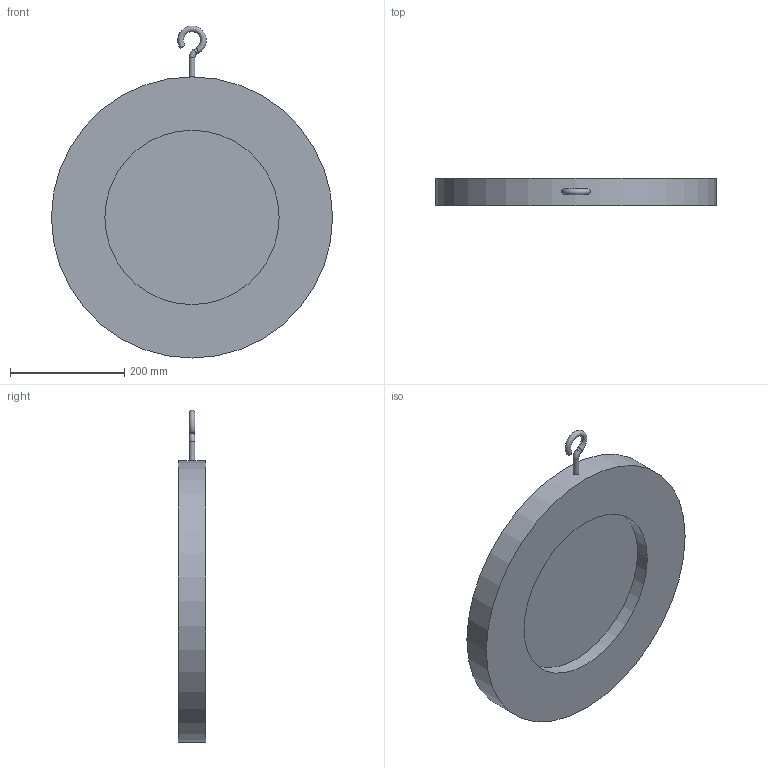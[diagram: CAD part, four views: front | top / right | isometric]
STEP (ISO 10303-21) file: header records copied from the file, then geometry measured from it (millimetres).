
FILE_DESCRIPTION(('STEP AP203'), '1');
FILE_NAME('孰囡囗 钺疣蝽 钿眍耱忸瘅囹 戾骠豚眦邂 008C.Y DN400', '', ('UNSPECIFIED'), ('UNSPECIFIED'), 'ASCON STEP Converter 1.6', 'ASCON Math Kernel', '');
FILE_SCHEMA(('CONFIG_CONTROL_DESIGN'));
Length unit declared in the file: millimetre
Bounding box: 492 x 48 x 581 mm (x, y, z)
Volume: 5742679.6 mm3; surface area: 516908.3 mm2
Topology: 1 solids, 1 shells, 31 faces, 69 edges, 45 vertices
Faces by surface type: plane 16, cylinder 12, torus 2, cone 1
Full cylindrical faces by diameter (mm): 10 x2, 305 x1, 492 x1
Entity records: 1366 total; most frequent: CARTESIAN_POINT 403, DIRECTION 146, ORIENTED_EDGE 124, EDGE_CURVE 62, AXIS2_PLACEMENT_3D 57, VERTEX_POINT 45, EDGE_LOOP 43, COLOUR_RGB 32
